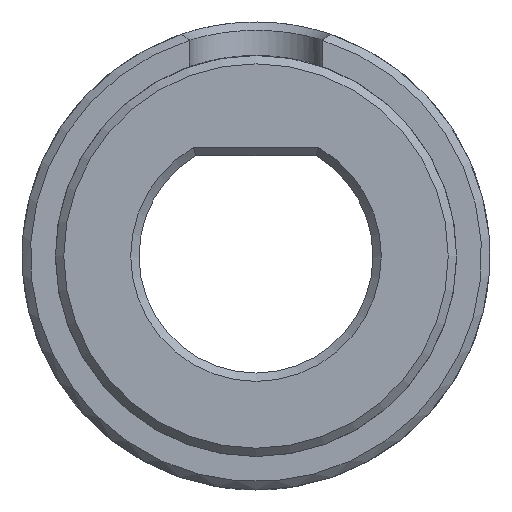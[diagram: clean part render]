
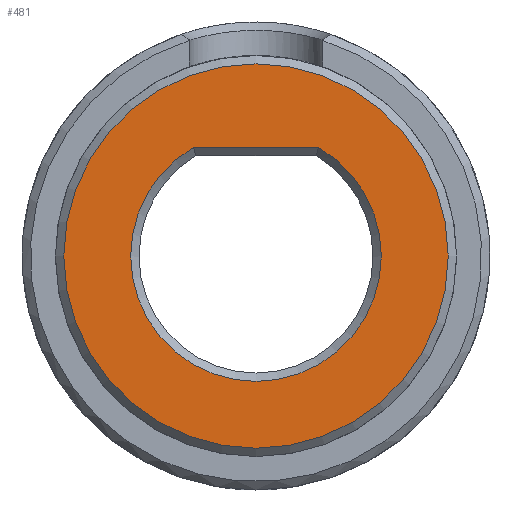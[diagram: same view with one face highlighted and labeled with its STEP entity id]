
A CAD part, front view. The second image highlights one B-rep face of the part: STEP entity #481.
In plain terms, the highlighted planar face has unit normal (0, -1, 0).
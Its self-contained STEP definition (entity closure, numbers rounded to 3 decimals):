
#18=FACE_BOUND('',#76,.T.);
#24=PLANE('',#527);
#46=FACE_OUTER_BOUND('',#75,.T.);
#75=EDGE_LOOP('',(#351));
#76=EDGE_LOOP('',(#352,#353));
#126=LINE('',#836,#157);
#157=VECTOR('',#584,10.);
#186=CIRCLE('',#522,3.75);
#189=CIRCLE('',#528,5.75);
#215=VERTEX_POINT('',#820);
#216=VERTEX_POINT('',#821);
#221=VERTEX_POINT('',#844);
#263=EDGE_CURVE('',#215,#216,#186,.T.);
#268=EDGE_CURVE('',#216,#215,#126,.T.);
#272=EDGE_CURVE('',#221,#221,#189,.T.);
#351=ORIENTED_EDGE('',*,*,#272,.F.);
#352=ORIENTED_EDGE('',*,*,#263,.F.);
#353=ORIENTED_EDGE('',*,*,#268,.F.);
#481=ADVANCED_FACE('',(#46,#18),#24,.T.);
#522=AXIS2_PLACEMENT_3D('',#822,#577,#578);
#527=AXIS2_PLACEMENT_3D('',#843,#591,#592);
#528=AXIS2_PLACEMENT_3D('',#845,#593,#594);
#577=DIRECTION('center_axis',(0.,-1.,0.));
#578=DIRECTION('ref_axis',(0.,0.,-1.));
#584=DIRECTION('',(-1.,0.,0.));
#591=DIRECTION('center_axis',(0.,-1.,0.));
#592=DIRECTION('ref_axis',(0.,0.,-1.));
#593=DIRECTION('center_axis',(0.,1.,0.));
#594=DIRECTION('ref_axis',(0.,0.,-1.));
#820=CARTESIAN_POINT('',(-1.871,-32.,3.25));
#821=CARTESIAN_POINT('',(1.871,-32.,3.25));
#822=CARTESIAN_POINT('Origin',(0.,-32.,0.));
#836=CARTESIAN_POINT('',(-0.901,-32.,3.25));
#843=CARTESIAN_POINT('Origin',(0.,-32.,6.));
#844=CARTESIAN_POINT('',(0.,-32.,5.75));
#845=CARTESIAN_POINT('Origin',(0.,-32.,0.));
